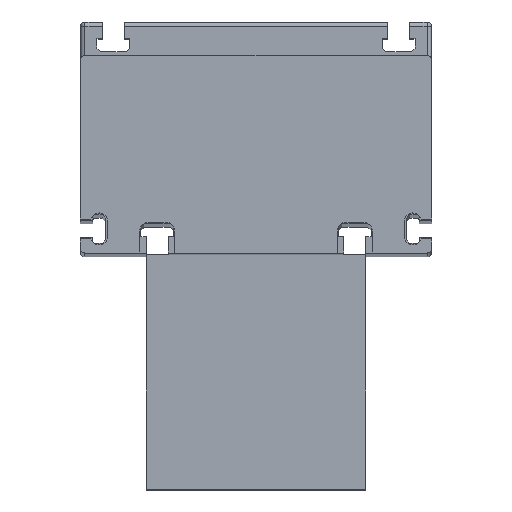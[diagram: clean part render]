
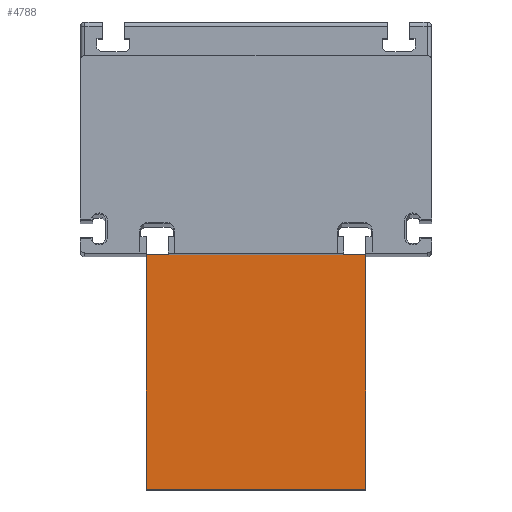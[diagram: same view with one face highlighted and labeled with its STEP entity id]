
A CAD part, top view. The second image highlights one B-rep face of the part: STEP entity #4788.
In plain terms, the highlighted planar face has unit normal (0, 0, 1).
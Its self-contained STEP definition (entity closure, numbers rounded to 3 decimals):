
#15 = LINE ( 'NONE', #2690, #9734 ) ;
#525 = CARTESIAN_POINT ( 'NONE',  ( -50., 107., 90. ) ) ;
#1274 = VERTEX_POINT ( 'NONE', #4924 ) ;
#1482 = ORIENTED_EDGE ( 'NONE', *, *, #2992, .T. ) ;
#1913 = DIRECTION ( 'NONE',  ( -1., 0., 0. ) ) ;
#2309 = DIRECTION ( 'NONE',  ( -1., 0., 0. ) ) ;
#2311 = VERTEX_POINT ( 'NONE', #5288 ) ;
#2606 = ORIENTED_EDGE ( 'NONE', *, *, #5527, .F. ) ;
#2681 = ORIENTED_EDGE ( 'NONE', *, *, #5145, .F. ) ;
#2687 = FACE_OUTER_BOUND ( 'NONE', #12152, .T. ) ;
#2690 = CARTESIAN_POINT ( 'NONE',  ( 50., 107., 90. ) ) ;
#2810 = ORIENTED_EDGE ( 'NONE', *, *, #3610, .T. ) ;
#2964 = VECTOR ( 'NONE', #2309, 1000. ) ;
#2992 = EDGE_CURVE ( 'NONE', #10910, #12332, #15, .T. ) ;
#3334 = LINE ( 'NONE', #11177, #2964 ) ;
#3610 = EDGE_CURVE ( 'NONE', #12332, #2311, #8276, .T. ) ;
#4788 = ADVANCED_FACE ( 'NONE', ( #2687 ), #8601, .F. ) ;
#4924 = CARTESIAN_POINT ( 'NONE',  ( 50., 0., 90. ) ) ;
#5145 = EDGE_CURVE ( 'NONE', #10910, #1274, #11016, .T. ) ;
#5288 = CARTESIAN_POINT ( 'NONE',  ( -50., 0., 90. ) ) ;
#5527 = EDGE_CURVE ( 'NONE', #1274, #2311, #3334, .T. ) ;
#6066 = AXIS2_PLACEMENT_3D ( 'NONE', #8474, #10668, #9636 ) ;
#8057 = DIRECTION ( 'NONE',  ( 0., -1., 0. ) ) ;
#8155 = CARTESIAN_POINT ( 'NONE',  ( -50., 0., 90. ) ) ;
#8276 = LINE ( 'NONE', #8155, #12205 ) ;
#8474 = CARTESIAN_POINT ( 'NONE',  ( 50., 0., 90. ) ) ;
#8601 = PLANE ( 'NONE',  #6066 ) ;
#9636 = DIRECTION ( 'NONE',  ( 0., 1., 0. ) ) ;
#9734 = VECTOR ( 'NONE', #1913, 1000. ) ;
#10149 = DIRECTION ( 'NONE',  ( 0., -1., 0. ) ) ;
#10656 = CARTESIAN_POINT ( 'NONE',  ( 50., 107., 90. ) ) ;
#10668 = DIRECTION ( 'NONE',  ( 0., 0., -1. ) ) ;
#10910 = VERTEX_POINT ( 'NONE', #10656 ) ;
#11016 = LINE ( 'NONE', #11842, #11628 ) ;
#11177 = CARTESIAN_POINT ( 'NONE',  ( 50., 0., 90. ) ) ;
#11628 = VECTOR ( 'NONE', #8057, 1000. ) ;
#11842 = CARTESIAN_POINT ( 'NONE',  ( 50., 0., 90. ) ) ;
#12152 = EDGE_LOOP ( 'NONE', ( #2810, #2606, #2681, #1482 ) ) ;
#12205 = VECTOR ( 'NONE', #10149, 1000. ) ;
#12332 = VERTEX_POINT ( 'NONE', #525 ) ;
